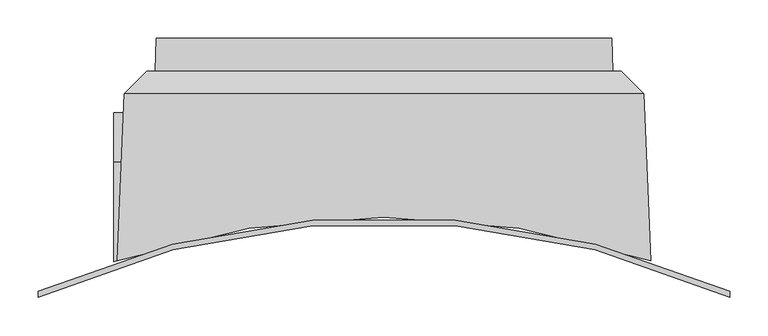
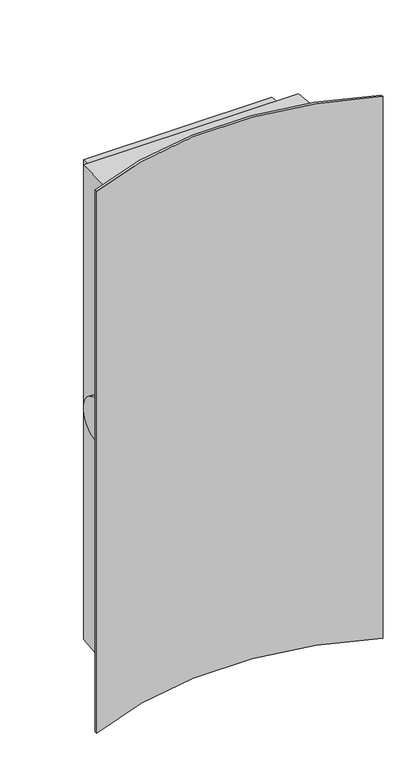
"""IFC4 building model written with IfcOpenShell, lengths in millimetres: proxy geometry, SU.MRADAPTOR.2200.600Lx1500W."""

from ifc_helpers import new_model, si_unit, frame, origin, place, context, project, spatial, polyline, circle_curve, ellipse_curve, source, transform, mapped, element, save
from ifc_brep_helpers import plane_surface, cylinder_surface, revolved_surface, advanced_brep


def generic_models_8ad0125c(model_context):
    return source(origin(), model_context, "Body", "AdvancedBrep", [
        advanced_brep(
        [(296.4984069, 250.0, -746.4984069), (-296.4984069, 250.0, -746.4984069), (-296.4984069, 250.0, 746.4984069), (296.4984069, 250.0, 746.4984069), (298.0, 207.0, -748.0), (-298.0, 207.0, -748.0), (-298.0, 207.0, 748.0), (298.0, 207.0, 748.0), (-450.0, -79.257005, 900.0), (450.0, -79.257005, 900.0), (450.0, -79.257005, -900.0), (-450.0, -79.257005, -900.0), (-347.2676121, -39.2542428, -80.0511122), (-347.2676121, -39.2542428, -797.2676121), (347.2676121, -39.2542428, -797.2676121), (347.2676121, -39.2542428, 797.2676121), (-347.2676121, -39.2542428, 797.2676121), (-347.2676121, -39.2542428, 80.0511122), (-352.0, -40.8407032, 80.1780291), (-352.0, -40.8407032, -80.1780291), (-338.1192031, 178.0204704, -788.1192031), (338.1192031, 178.0204704, -788.1192031), (-309.1396735, 207.0, -759.1396735), (309.1396735, 207.0, -759.1396735), (338.1192031, 178.0204704, 788.1192031), (-338.1192031, 178.0204704, 788.1192031), (-309.1396735, 207.0, 759.1396735), (309.1396735, 207.0, 759.1396735), (-341.8602212, 89.1712914, 69.7770695), (-352.0, 89.1712914, 69.7770695), (-341.8602212, 89.1712914, -69.7770695), (-352.0, 89.1712914, -69.7770695), (-450.0, -86.9332352, -900.0), (-450.0, -86.9332352, 900.0), (450.0, -86.9332352, -900.0), (450.0, -86.9332352, 900.0)],
        [
            (0, 1),
            (1, 2),
            (2, 3),
            (3, 0),
            (0, 4),
            (4, 5),
            (5, 1),
            (5, 6),
            (6, 2),
            (3, 7),
            (7, 4),
            (6, 7),
            (8, 9, circle_curve(frame((0.0, -1083.0, 900.0), z_axis=(0.0, 0.0, -1.0), x_axis=(0.4090909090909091, 0.9124936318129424, 0.0)), 1100.0)),
            (9, 10),
            (10, 11, circle_curve(frame((0.0, -1083.0, -900.0), z_axis=(0.0, 0.0, 1.0), x_axis=(0.4090909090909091, 0.9124936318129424, 0.0)), 1100.0)),
            (11, 8),
            (12, 13),
            (13, 14, ellipse_curve(frame((0.0, -1083.0, -841.2148019), z_axis=(0.0, 0.04206798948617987, -0.9991147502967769), x_axis=(0.0, 0.9991147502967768, 0.042067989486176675)), 1100.9746375, 1100.0)),
            (14, 15),
            (15, 16, ellipse_curve(frame((0.0, -1083.0, 841.2148019), z_axis=(0.0, 0.04206798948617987, 0.9991147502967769), x_axis=(0.0, -0.9991147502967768, 0.042067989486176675)), 1100.9746375, 1100.0)),
            (16, 17),
            (17, 18, ellipse_curve(frame((0.0, -1083.0, 163.5507728), z_axis=(0.0, 0.07974522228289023, 0.9968152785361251), x_axis=(0.0, -0.9968152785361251, 0.07974522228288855)), 1103.514386, 1100.0)),
            (18, 19),
            (19, 12, ellipse_curve(frame((0.0, -1083.0, -163.5507728), z_axis=(0.0, 0.07974522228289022, -0.9968152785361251), x_axis=(0.0, 0.9968152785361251, 0.07974522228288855)), 1103.514386, 1100.0)),
            (13, 20),
            (20, 21),
            (21, 14),
            (20, 22),
            (22, 23),
            (23, 21),
            (15, 24),
            (24, 25),
            (25, 16),
            (20, 25),
            (25, 26),
            (26, 22),
            (24, 21),
            (23, 27),
            (27, 24),
            (27, 26),
            (17, 28),
            (28, 29),
            (29, 18),
            (12, 30),
            (30, 28, ellipse_curve(frame((-342.0952597, 83.5891259, 0.0), z_axis=(0.9991147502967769, -0.04206798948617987, 0.0), x_axis=(-0.042067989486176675, -0.9991147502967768, 0.0)), 70.0620224, 70.0)),
            (19, 31),
            (31, 30),
            (29, 31, circle_curve(frame((-352.0, 83.5891259, 0.0), z_axis=(-1.0, 0.0, 0.0), x_axis=(0.0, 0.07974522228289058, -0.996815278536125)), 70.0)),
            (11, 32),
            (32, 33),
            (33, 8),
            (32, 34, circle_curve(frame((0.0, -1083.0, -900.0), z_axis=(0.0, 0.0, -1.0), x_axis=(-0.41171088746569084, -0.9113145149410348, 0.0)), 1093.0)),
            (34, 35),
            (35, 33, circle_curve(frame((0.0, -1083.0, 900.0), z_axis=(0.0, 0.0, 1.0), x_axis=(-0.41171088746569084, -0.9113145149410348, 0.0)), 1093.0)),
            (9, 35),
            (34, 10),
        ],
        [
            plane_surface(frame((248.0, 250.0, -746.4984069), z_axis=(0.0, 1.0, 0.0), x_axis=(0.0, 0.0, 1.0))),
            plane_surface(frame((-248.0, 207.0, -748.0), z_axis=(0.0, 0.03489949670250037, -0.9993908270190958), x_axis=(0.0, 0.9993908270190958, 0.03489949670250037))),
            plane_surface(frame((-298.0, 207.0, 698.0), z_axis=(-0.9993908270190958, 0.03489949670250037, 0.0), x_axis=(0.03489949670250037, 0.9993908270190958, 0.0))),
            plane_surface(frame((298.0, 207.0, -698.0), z_axis=(0.9993908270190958, 0.03489949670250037, 0.0), x_axis=(-0.03489949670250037, 0.9993908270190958, 0.0))),
            plane_surface(frame((248.0, 207.0, 748.0), z_axis=(0.0, 0.03489949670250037, 0.9993908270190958), x_axis=(0.0, 0.9993908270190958, -0.03489949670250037))),
            cylinder_surface(frame((0.0, -1083.0, 0.0), z_axis=(0.0, 0.0, 1.0000000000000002), x_axis=(0.4090909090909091, 0.9124936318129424, 0.0)), 1100.0),
            plane_surface(frame((-248.0, -299.4172684, -808.2218447), z_axis=(0.0, 0.04206798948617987, -0.9991147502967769), x_axis=(0.0, 0.9991147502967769, 0.04206798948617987))),
            plane_surface(frame((-248.0, 178.0204704, -788.1192031), z_axis=(0.0, 0.7071067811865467, -0.7071067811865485), x_axis=(0.0, 0.7071067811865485, 0.7071067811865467))),
            plane_surface(frame((248.0, -299.4172684, 808.2218447), z_axis=(0.0, 0.04206798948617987, 0.9991147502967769), x_axis=(0.0, 0.9991147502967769, -0.04206798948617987))),
            plane_surface(frame((-338.1192031, 178.0204704, 698.0), z_axis=(-0.7071067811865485, 0.7071067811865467, 0.0), x_axis=(0.7071067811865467, 0.7071067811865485, 0.0))),
            plane_surface(frame((338.1192031, 178.0204704, -698.0), z_axis=(0.7071067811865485, 0.7071067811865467, 0.0), x_axis=(-0.7071067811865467, 0.7071067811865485, 0.0))),
            plane_surface(frame((248.0, 178.0204704, 788.1192031), z_axis=(0.0, 0.7071067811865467, 0.7071067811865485), x_axis=(0.0, 0.7071067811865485, -0.7071067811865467))),
            plane_surface(frame((0.0, -157.436025, 89.5056548), z_axis=(0.0, 0.07974522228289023, 0.9968152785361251), x_axis=(0.0, 0.9968152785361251, -0.07974522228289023))),
            plane_surface(frame((-358.2218447, -299.4172684, 698.0), z_axis=(-0.9991147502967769, 0.04206798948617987, 0.0), x_axis=(0.04206798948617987, 0.9991147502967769, 0.0))),
            plane_surface(frame((0.0, 89.1712914, -69.7770695), z_axis=(0.0, 0.07974522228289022, -0.9968152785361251), x_axis=(0.0, -0.9968152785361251, -0.07974522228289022))),
            plane_surface(frame((-352.0, -1.9234495, 0.0), z_axis=(-1.0, 0.0, 0.0), x_axis=(0.0, 0.0, -1.0))),
            cylinder_surface(frame((0.0, 83.5891259, 0.0), z_axis=(-1.0, 0.0, 0.0), x_axis=(0.0, 0.07974522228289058, -0.996815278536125)), 70.0),
            plane_surface(frame((248.0, 207.0, -759.1396735), z_axis=(0.0, 1.0, 0.0), x_axis=(0.0, 0.0, 1.0))),
            plane_surface(frame((-450.0, -79.257005, 0.0), z_axis=(-1.0, 0.0, 0.0), x_axis=(0.0, -1.0, 0.0))),
            revolved_surface(polyline([(-450.0000000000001, -2079.066764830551, 900.0000000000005), (-450.0000000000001, -2079.066764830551, -900.0000000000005)]), (0.0, -1083.0, 0.0), (0.0, 0.0, 1.0000000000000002)),
            plane_surface(frame((450.0, -86.9332352, 0.0), z_axis=(1.0, 0.0, 0.0), x_axis=(0.0, 1.0, 0.0))),
            plane_surface(frame((358.2218447, -299.4172684, -698.0), z_axis=(0.9991147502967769, 0.04206798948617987, 0.0), x_axis=(-0.04206798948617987, 0.9991147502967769, 0.0))),
            plane_surface(frame((0.0, -34.9666176, 900.0), z_axis=(0.0, 0.0, 1.0), x_axis=(1.0, 0.0, 0.0))),
            plane_surface(frame((0.0, -34.9666176, -900.0), z_axis=(0.0, 0.0, -1.0), x_axis=(1.0, 0.0, 0.0))),
        ],
        [
            (0, [[1, 2, 3, 4]]),
            (1, [[-1, 5, 6, 7]]),
            (2, [[-7, 8, 9, -2]]),
            (3, [[-4, 10, 11, -5]]),
            (4, [[-3, -9, 12, -10]]),
            (5, [[13, 14, 15, 16], [17, 18, 19, 20, 21, 22, 23, 24]]),
            (6, [[25, 26, 27, -18]]),
            (7, [[-26, 28, 29, 30]]),
            (8, [[-20, 31, 32, 33]]),
            (9, [[34, 35, 36, -28]]),
            (10, [[37, -30, 38, 39]]),
            (11, [[-32, -39, 40, -35]]),
            (12, [[-22, 41, 42, 43]]),
            (13, [[-17, 44, 45, -41, -21, -33, -34, -25]]),
            (14, [[-24, 46, 47, -44]]),
            (15, [[-46, -23, -43, 48]]),
            (16, [[-48, -42, -45, -47]]),
            (17, [[-29, -36, -40, -38], [-6, -11, -12, -8]]),
            (18, [[-16, 49, 50, 51]]),
            (19, [[-50, 52, 53, 54]]),
            (20, [[-14, 55, -53, 56]]),
            (21, [[-27, -37, -31, -19]]),
            (22, [[-51, -54, -55, -13]]),
            (23, [[-49, -15, -56, -52]]),
        ],
    ),
    ])


if __name__ == "__main__":
    model = new_model("IFC4")
    model_context = context("Model", 3, world=origin())
    ifc_project = project(units=[si_unit("LENGTHUNIT", "METRE", prefix="MILLI")], contexts=[model_context])
    site = spatial("IfcSite", under=ifc_project)
    building = spatial("IfcBuilding", under=site)
    placement = place(None, origin())
    generic_models_shape = generic_models_8ad0125c(model_context)
    element("IfcBuildingElementProxy", 1, Name="SU.MRADAPTOR.2200.600Lx1500W", ObjectType="SU.MRADAPTOR.2200.600Lx1500W", at=placement, inside=building, context=model_context, shape_type="MappedRepresentation", body=[
        mapped(generic_models_shape, transform((0.0, 0.0, 0.0), x_axis=(1.0, 0.0, 0.0), y_axis=(0.0, 1.0, 0.0), z_axis=(0.0, 0.0, 1.0))),
    ])
    save(model, "model.ifc")
